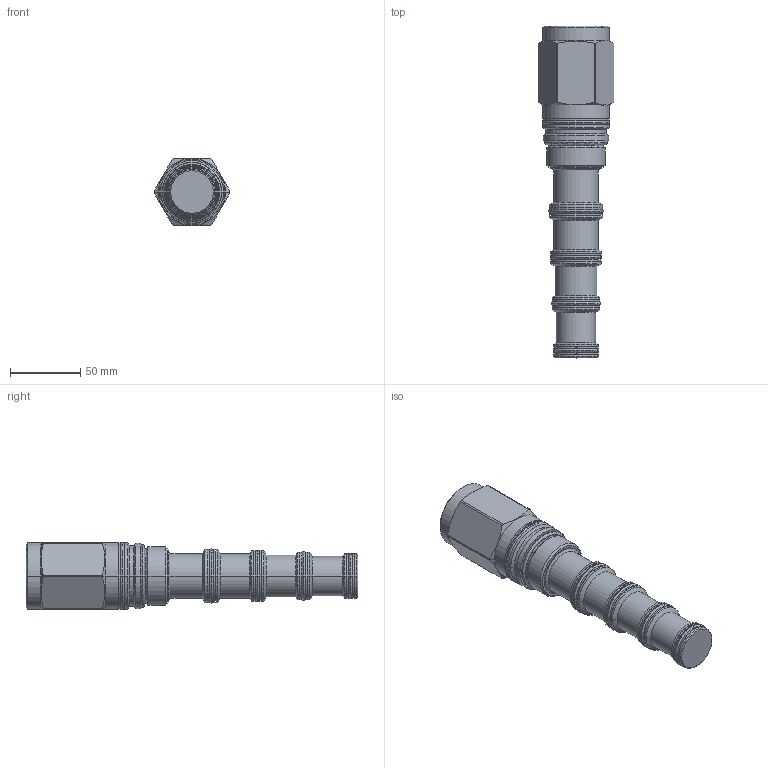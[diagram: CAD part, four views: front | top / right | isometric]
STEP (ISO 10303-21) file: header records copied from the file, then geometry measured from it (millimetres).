
FILE_DESCRIPTION((''),'2;1');
FILE_NAME('5262134_SW0001','2009-02-09T',('jcs'),(''),'PRO/ENGINEER BY PARAMETRIC TECHNOLOGY CORPORATION, 2008010','PRO/ENGINEER BY PARAMETRIC TECHNOLOGY CORPORATION, 2008010','');
FILE_SCHEMA(('CONFIG_CONTROL_DESIGN'));
Length unit declared in the file: inch
Products named in the file (1): 5262134_SW0001
Bounding box: 54.23 x 236.96 x 47.75 mm (x, y, z)
Volume: 285770.7 mm3; surface area: 45773.8 mm2
Topology: 9 solids, 9 shells, 240 faces, 528 edges, 312 vertices
Faces by surface type: cylinder 82, plane 50, revolution 48, cone 32, torus 28
Entity records: 7840 total; most frequent: CARTESIAN_POINT 2472, DIRECTION 1164, ORIENTED_EDGE 1056, EDGE_CURVE 528, AXIS2_PLACEMENT_3D 492, VERTEX_POINT 312, CIRCLE 300, EDGE_LOOP 258
